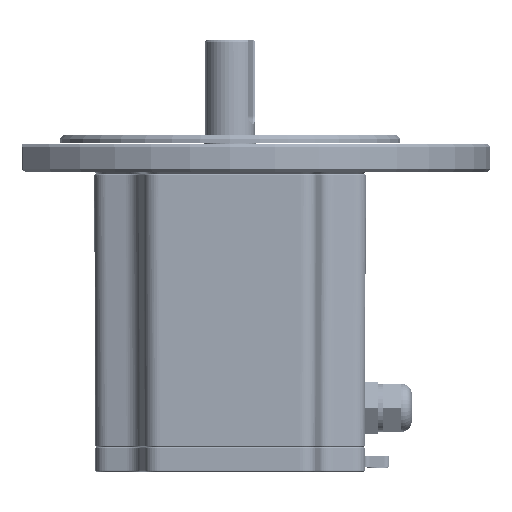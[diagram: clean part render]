
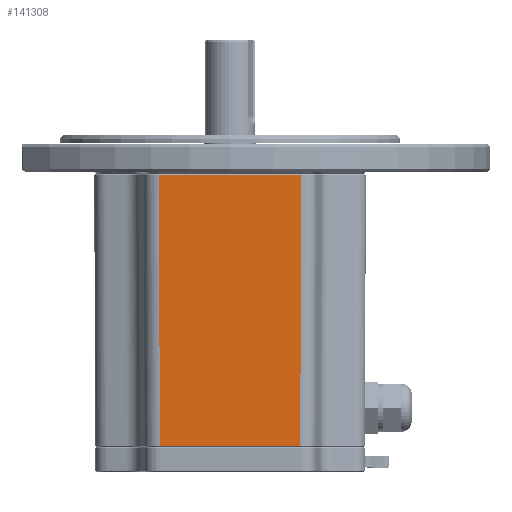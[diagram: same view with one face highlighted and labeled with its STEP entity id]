
A CAD part, left-side view. The second image highlights one B-rep face of the part: STEP entity #141308.
In plain terms, the highlighted planar face has unit normal (-1, 0, -0.004).
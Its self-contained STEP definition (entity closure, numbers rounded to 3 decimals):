
#252 = CARTESIAN_POINT ( 'NONE',  ( -51.808, -26.999, -56.896 ) ) ;
#3559 = DIRECTION ( 'NONE',  ( 0., -1., 0. ) ) ;
#6918 = FACE_OUTER_BOUND ( 'NONE', #165247, .T. ) ;
#13598 = CARTESIAN_POINT ( 'NONE',  ( -52.262, -27.358, 47.1 ) ) ;
#16536 = CARTESIAN_POINT ( 'NONE',  ( -51.808, 27.002, -56.896 ) ) ;
#18903 = CARTESIAN_POINT ( 'NONE',  ( -52.262, -21.927, 47.1 ) ) ;
#21377 = PLANE ( 'NONE',  #85043 ) ;
#23317 = CARTESIAN_POINT ( 'NONE',  ( -51.808, 27.002, -56.896 ) ) ;
#29673 = VECTOR ( 'NONE', #82281, 1000. ) ;
#33130 = VERTEX_POINT ( 'NONE', #174726 ) ;
#36720 = DIRECTION ( 'NONE',  ( 0., 1., 0. ) ) ;
#38777 = EDGE_CURVE ( 'NONE', #147362, #139783, #118001, .T. ) ;
#40517 = ORIENTED_EDGE ( 'NONE', *, *, #138930, .F. ) ;
#45279 = CARTESIAN_POINT ( 'NONE',  ( -51.808, -27.002, -56.896 ) ) ;
#55153 = EDGE_CURVE ( 'NONE', #91387, #128660, #176573, .T. ) ;
#59925 = CARTESIAN_POINT ( 'NONE',  ( -51.808, -26.999, -56.896 ) ) ;
#62008 = CARTESIAN_POINT ( 'NONE',  ( -51.808, -20.326, -56.896 ) ) ;
#64758 = CARTESIAN_POINT ( 'NONE',  ( -51.808, 26.999, -56.896 ) ) ;
#75651 = CARTESIAN_POINT ( 'NONE',  ( -51.808, 27., -56.896 ) ) ;
#77247 = DIRECTION ( 'NONE',  ( -0.004, 0., 1. ) ) ;
#82281 = DIRECTION ( 'NONE',  ( 0.004, 0.003, -1. ) ) ;
#82453 = ORIENTED_EDGE ( 'NONE', *, *, #140787, .F. ) ;
#84163 = CARTESIAN_POINT ( 'NONE',  ( -51.808, -27., -56.896 ) ) ;
#85043 = AXIS2_PLACEMENT_3D ( 'NONE', #117926, #104395, #77247 ) ;
#86870 = ORIENTED_EDGE ( 'NONE', *, *, #55153, .F. ) ;
#90075 = VERTEX_POINT ( 'NONE', #13598 ) ;
#90099 = CARTESIAN_POINT ( 'NONE',  ( -51.808, 27.001, -56.896 ) ) ;
#91387 = VERTEX_POINT ( 'NONE', #16536 ) ;
#103756 = EDGE_CURVE ( 'NONE', #139783, #91387, #173325, .T. ) ;
#104395 = DIRECTION ( 'NONE',  ( -1., 0., -0.004 ) ) ;
#105843 = ORIENTED_EDGE ( 'NONE', *, *, #122113, .T. ) ;
#107930 = CARTESIAN_POINT ( 'NONE',  ( -52.234, 27.336, 40.706 ) ) ;
#112676 = ORIENTED_EDGE ( 'NONE', *, *, #38777, .F. ) ;
#115411 = CARTESIAN_POINT ( 'NONE',  ( -52.262, 27.358, 47.1 ) ) ;
#117926 = CARTESIAN_POINT ( 'NONE',  ( -52.234, -27.102, 40.799 ) ) ;
#118001 = LINE ( 'NONE', #62008, #170473 ) ;
#121451 = DIRECTION ( 'NONE',  ( -0.004, 0.003, 1. ) ) ;
#122113 = EDGE_CURVE ( 'NONE', #147362, #33130, #136685, .T. ) ;
#128660 = VERTEX_POINT ( 'NONE', #115411 ) ;
#128981 = VECTOR ( 'NONE', #121451, 1000. ) ;
#136685 = B_SPLINE_CURVE_WITH_KNOTS ( 'NONE', 3,
 ( #252, #84163, #169015, #45279 ),
 .UNSPECIFIED., .F., .F.,
 ( 4, 4 ),
 ( 0., 1. ),
 .UNSPECIFIED. ) ;
#138930 = EDGE_CURVE ( 'NONE', #90075, #33130, #151823, .T. ) ;
#139783 = VERTEX_POINT ( 'NONE', #161413 ) ;
#140787 = EDGE_CURVE ( 'NONE', #128660, #90075, #155229, .T. ) ;
#141308 = ADVANCED_FACE ( 'NONE', ( #6918 ), #21377, .T. ) ;
#145555 = VECTOR ( 'NONE', #3559, 1000. ) ;
#147362 = VERTEX_POINT ( 'NONE', #59925 ) ;
#148282 = CARTESIAN_POINT ( 'NONE',  ( -52.234, -27.336, 40.785 ) ) ;
#151823 = LINE ( 'NONE', #148282, #29673 ) ;
#155229 = LINE ( 'NONE', #18903, #145555 ) ;
#159210 = ORIENTED_EDGE ( 'NONE', *, *, #103756, .F. ) ;
#161413 = CARTESIAN_POINT ( 'NONE',  ( -51.808, 26.999, -56.896 ) ) ;
#165247 = EDGE_LOOP ( 'NONE', ( #82453, #86870, #159210, #112676, #105843, #40517 ) ) ;
#169015 = CARTESIAN_POINT ( 'NONE',  ( -51.808, -27.001, -56.896 ) ) ;
#170473 = VECTOR ( 'NONE', #36720, 1000. ) ;
#173325 = B_SPLINE_CURVE_WITH_KNOTS ( 'NONE', 3,
 ( #64758, #75651, #90099, #23317 ),
 .UNSPECIFIED., .F., .F.,
 ( 4, 4 ),
 ( 0., 1. ),
 .UNSPECIFIED. ) ;
#174726 = CARTESIAN_POINT ( 'NONE',  ( -51.808, -27.002, -56.896 ) ) ;
#176573 = LINE ( 'NONE', #107930, #128981 ) ;
